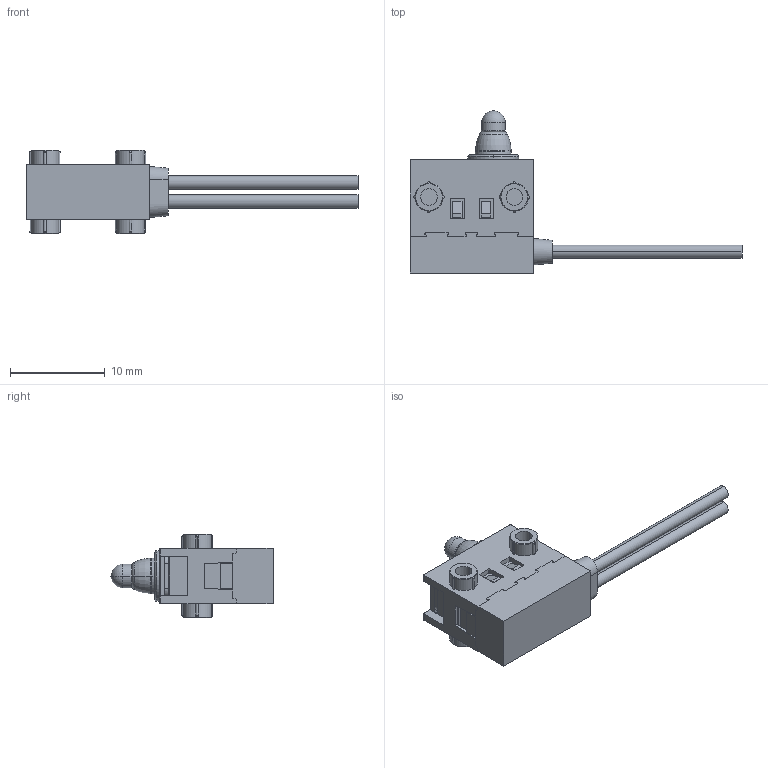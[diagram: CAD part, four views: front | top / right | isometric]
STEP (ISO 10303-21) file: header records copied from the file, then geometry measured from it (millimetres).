
FILE_DESCRIPTION (( 'STEP AP214' ), '1' );
FILE_NAME ('SPVQ361700.STEP', '2011-03-19T07:57:30', ( '' ), ( '' ), 'SwSTEP 2.0', 'SolidWorks 2007', '' );
FILE_SCHEMA (( 'AUTOMOTIVE_DESIGN' ));
Length unit declared in the file: millimetre
Products named in the file (1): SPVQ361700
Bounding box: 35 x 17.09 x 8.8 mm (x, y, z)
Volume: 1012.4 mm3; surface area: 1402.6 mm2
Topology: 1 solids, 1 shells, 364 faces, 1024 edges, 663 vertices
Faces by surface type: plane 188, cylinder 142, torus 18, cone 12, bspline 2, sphere 2
Entity records: 15955 total; most frequent: CARTESIAN_POINT 2386, ORIENTED_EDGE 2040, DIRECTION 2010, EDGE_CURVE 1020, AXIS2_PLACEMENT_3D 671, VECTOR 668, LINE 668, VERTEX_POINT 661
